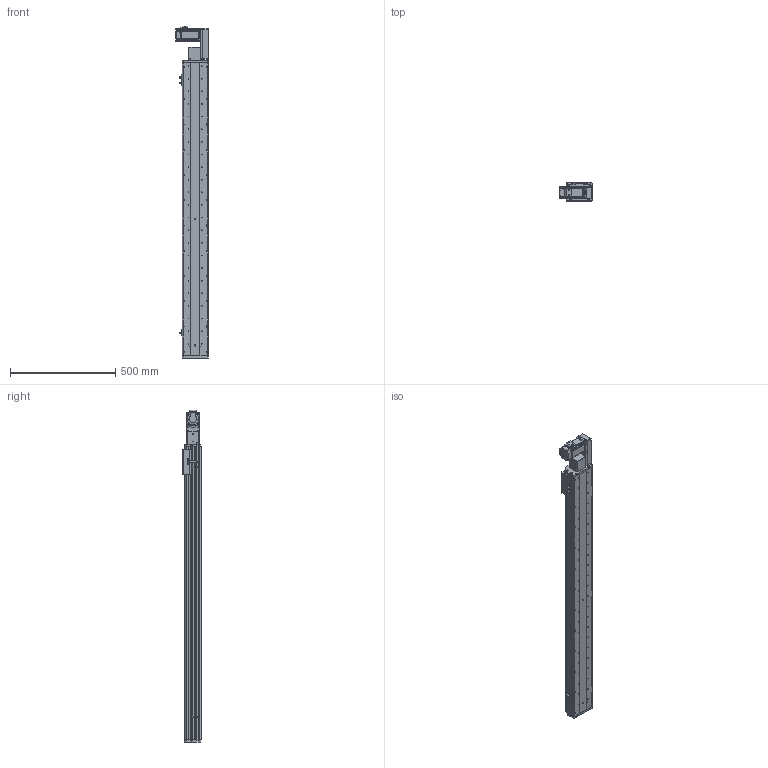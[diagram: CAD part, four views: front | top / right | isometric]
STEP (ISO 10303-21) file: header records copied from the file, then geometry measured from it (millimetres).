
FILE_DESCRIPTION (( 'STEP AP214' ), '1' );
FILE_NAME ('KSD125B-S1200-MLB-CM.STEP', '2017-10-21T01:58:25', ( '微软用户' ), ( '微软中国' ), 'SwSTEP 2.0', 'SolidWorks 2014', '' );
FILE_SCHEMA (( 'AUTOMOTIVE_DESIGN' ));
Length unit declared in the file: millimetre
Products named in the file (17): U倰嫖萇EEㄜSX672; KSD125模组同步带-防撞垫1; 前端板-125宽模组同步带; 125模组同步带-尾端板1; KSD125模组同步带-滑动座1; KSD125B-S1200-MLB-CM; 悵誘欶奻狟殏; HTPA30S3M150_A_H6_a佪裝蚚; HTPA30S3M150_A_H6_a萇儂蚚; 100宽马达安装板连板上下折丝杆同步带; 100宽马达安装板同步带左; KSD125模组1200行程同步带-防尘盖; 125模组1200行程同步带-底板; MHMD042G1CA_2_03; KSD125模组同步带-防撞垫2; 覜茼え68遵圉猾敕; U倰嫖萇假蚾璃
Assembly tree (20 placements, depth 2):
  KSD125B-S1200-MLB-CM
    KSD125模组同步带-滑动座1
    125模组同步带-尾端板1
    前端板-125宽模组同步带
    KSD125模组同步带-防撞垫1
    U倰嫖萇EEㄜSX672  x3
    U倰嫖萇假蚾璃  x3
    覜茼え68遵圉猾敕
    KSD125模组同步带-防撞垫2
    MHMD042G1CA_2_03
    125模组1200行程同步带-底板
    KSD125模组1200行程同步带-防尘盖
    100宽马达安装板同步带左
    100宽马达安装板连板上下折丝杆同步带
    HTPA30S3M150_A_H6_a萇儂蚚
    HTPA30S3M150_A_H6_a佪裝蚚
    悵誘欶奻狟殏
Bounding box: 155 x 86 x 1578 mm (x, y, z)
Volume: 4458897.3 mm3; surface area: 1489175.5 mm2
Topology: 19 solids, 22 shells, 2347 faces, 6805 edges, 4498 vertices
Faces by surface type: cylinder 1488, plane 732, cone 105, bspline 22
Entity records: 83843 total; most frequent: CARTESIAN_POINT 16515, DIRECTION 13026, ORIENTED_EDGE 12130, EDGE_CURVE 6143, AXIS2_PLACEMENT_3D 5049, VERTEX_POINT 4090, VECTOR 2928, LINE 2928
